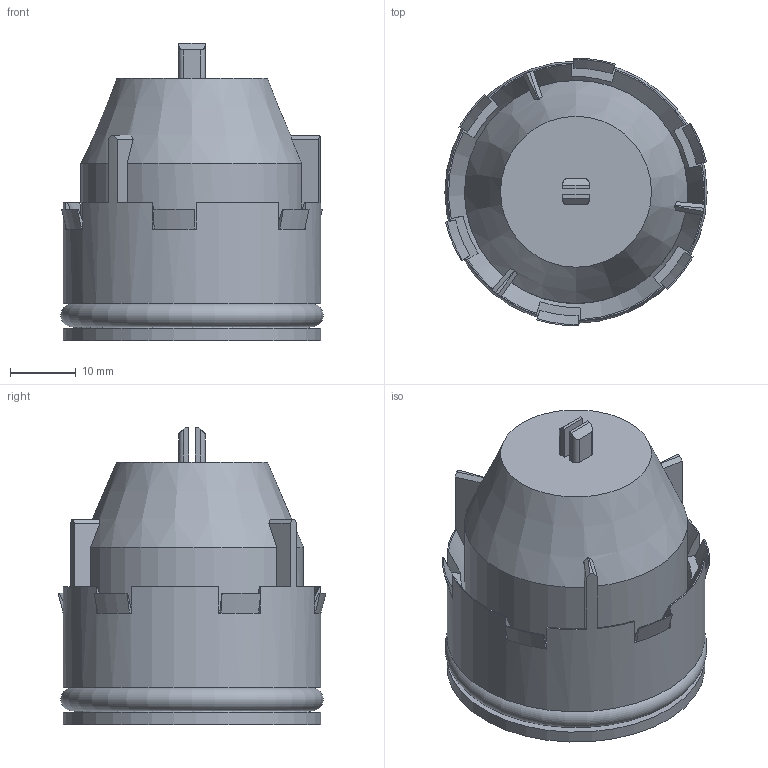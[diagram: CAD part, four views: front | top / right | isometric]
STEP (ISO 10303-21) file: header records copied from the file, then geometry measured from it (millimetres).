
FILE_DESCRIPTION((''),'2;1');
FILE_NAME('C:\Users\duckj\Desktop\10002716.stp','2017-08-02T08:42:58',('duckj'),(''),'Autodesk Inventor 2013','Autodesk Inventor 2013','');
FILE_SCHEMA(('CONFIG_CONTROL_DESIGN'));
Length unit declared in the file: millimetre
Products named in the file (1): 02082017_007
Bounding box: 39.97 x 40.79 x 45.3 mm (x, y, z)
Volume: 33394.4 mm3; surface area: 9426 mm2
Topology: 1 solids, 1 shells, 110 faces, 294 edges, 192 vertices
Faces by surface type: plane 78, cone 17, cylinder 10, torus 4, bspline 1
Full cylindrical faces by diameter (mm): 30.1 x1, 39.3 x2
Entity records: 3516 total; most frequent: DIRECTION 604, CARTESIAN_POINT 601, ORIENTED_EDGE 556, EDGE_CURVE 278, AXIS2_PLACEMENT_3D 216, VERTEX_POINT 186, VECTOR 172, LINE 172
